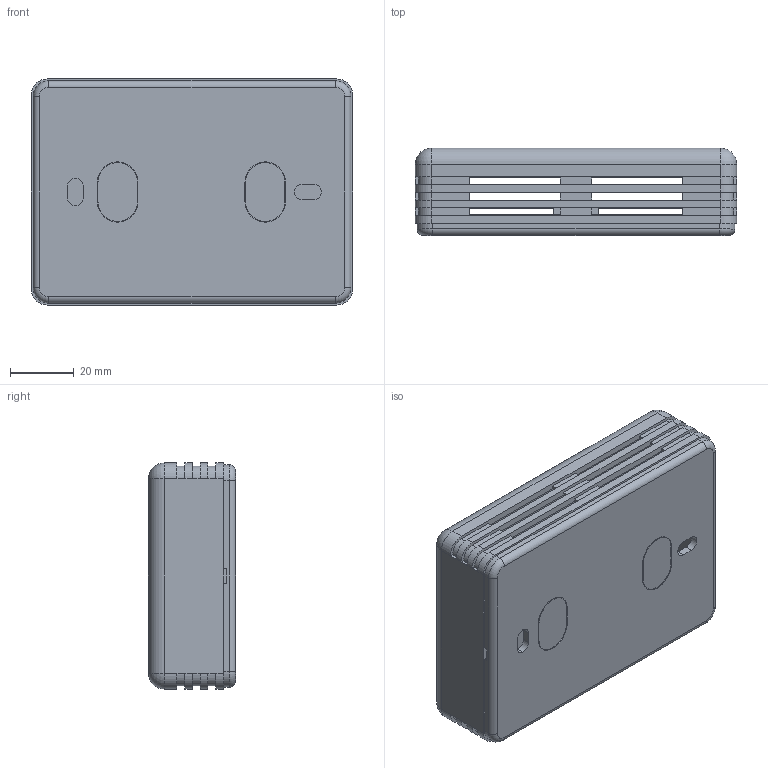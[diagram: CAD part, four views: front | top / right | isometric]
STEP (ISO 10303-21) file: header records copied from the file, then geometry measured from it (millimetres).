
FILE_DESCRIPTION (( 'STEP AP214' ), '1' );
FILE_NAME ('Conjunt PP121.STEP', '2019-10-28T18:44:14', ( 'aaa' ), ( '' ), 'SwSTEP 2.0', 'SolidWorks 2014', '' );
FILE_SCHEMA (( 'AUTOMOTIVE_DESIGN' ));
Length unit declared in the file: millimetre
Products named in the file (4): Cargol 2,2x6,95 PP121; Tapa PP121; Cos  PP121; Conjunt PP121
Assembly tree (6 placements, depth 2):
  Conjunt PP121
    Cos  PP121
    Tapa PP121
    Cargol 2,2x6,95 PP121  x4
Bounding box: 100.9 x 27.35 x 71 mm (x, y, z)
Volume: 44385.8 mm3; surface area: 48973.5 mm2
Topology: 6 solids, 6 shells, 564 faces, 1347 edges, 818 vertices
Faces by surface type: plane 223, cone 168, cylinder 161, torus 8, sphere 4
Entity records: 11757 total; most frequent: DIRECTION 2121, CARTESIAN_POINT 1973, ORIENTED_EDGE 1926, EDGE_CURVE 963, AXIS2_PLACEMENT_3D 759, VERTEX_POINT 611, VECTOR 603, LINE 603
